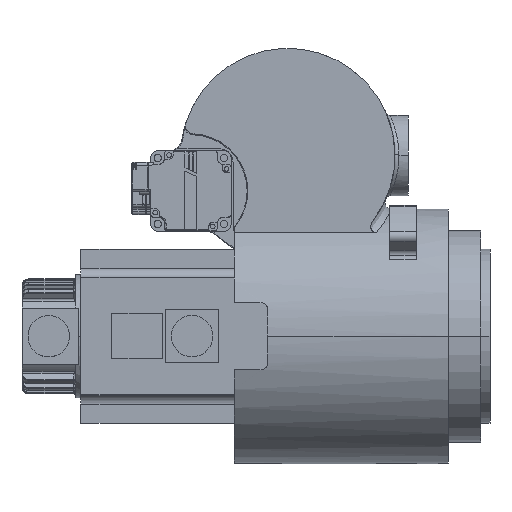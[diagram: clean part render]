
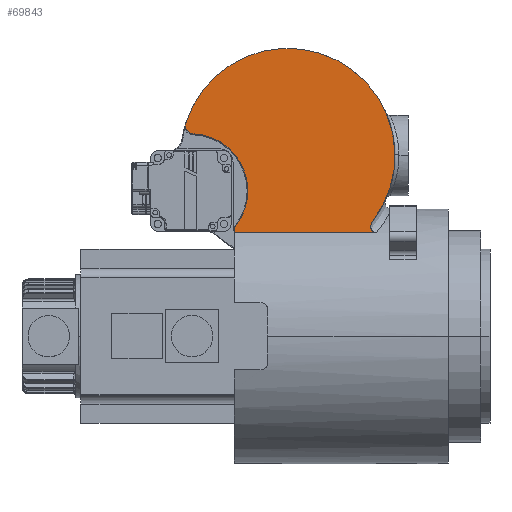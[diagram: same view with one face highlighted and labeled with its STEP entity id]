
A CAD part, top view. The second image highlights one B-rep face of the part: STEP entity #69843.
In plain terms, the highlighted planar face has unit normal (0, 0, 1).
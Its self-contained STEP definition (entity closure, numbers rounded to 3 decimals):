
#245 = DIRECTION ( 'NONE',  ( 0., 0., 1. ) ) ;
#3491 = LINE ( 'NONE', #70611, #74857 ) ;
#4595 = CARTESIAN_POINT ( 'NONE',  ( 63.168, -56.402, 55. ) ) ;
#5022 = CIRCLE ( 'NONE', #44814, 80. ) ;
#6357 = VECTOR ( 'NONE', #77544, 1000. ) ;
#8105 = DIRECTION ( 'NONE',  ( 1., 0., 0. ) ) ;
#8424 = DIRECTION ( 'NONE',  ( 0., 0., -1. ) ) ;
#11823 = CARTESIAN_POINT ( 'NONE',  ( 62.573, -55.613, 55. ) ) ;
#14988 = DIRECTION ( 'NONE',  ( 0., -1., 0. ) ) ;
#17564 = DIRECTION ( 'NONE',  ( 1., 0., 0. ) ) ;
#17804 = CARTESIAN_POINT ( 'NONE',  ( 66.081, -57.54, 55. ) ) ;
#17861 = CARTESIAN_POINT ( 'NONE',  ( 65.832, -57.54, 55. ) ) ;
#18165 = CARTESIAN_POINT ( 'NONE',  ( 66.081, -57.54, 55. ) ) ;
#18752 = CARTESIAN_POINT ( 'NONE',  ( 62.705, -55.827, 55. ) ) ;
#19587 = VERTEX_POINT ( 'NONE', #17804 ) ;
#19927 = CARTESIAN_POINT ( 'NONE',  ( 61.979, -53.492, 55. ) ) ;
#21515 = B_SPLINE_CURVE_WITH_KNOTS ( 'NONE', 3,
 ( #18165, #17861, #52061, #66255, #59888, #32060, #24798, #38770, #25087, #4595, #47483, #18752, #11823, #73799, #32362, #40517, #87878, #60492, #19927, #53862, #32647, #61065, #74395, #32939, #25711, #53271, #74087, #53555 ),
 .UNSPECIFIED., .F., .F.,
 ( 4, 2, 2, 2, 2, 2, 2, 2, 2, 2, 2, 2, 2, 4 ),
 ( 0., 0.001, 0.001, 0.002, 0.003, 0.004, 0.004, 0.005, 0.006, 0.007, 0.007, 0.009, 0.01, 0.012 ),
 .UNSPECIFIED. ) ;
#22148 = AXIS2_PLACEMENT_3D ( 'NONE', #66869, #79476, #17564 ) ;
#22665 = VERTEX_POINT ( 'NONE', #34849 ) ;
#24798 = CARTESIAN_POINT ( 'NONE',  ( 64.166, -57.122, 55. ) ) ;
#25087 = CARTESIAN_POINT ( 'NONE',  ( 63.538, -56.731, 55. ) ) ;
#25711 = CARTESIAN_POINT ( 'NONE',  ( 62.64, -50.138, 55. ) ) ;
#25835 = EDGE_CURVE ( 'NONE', #89012, #30117, #89066, .T. ) ;
#29037 = CARTESIAN_POINT ( 'NONE',  ( -40., -57.54, 55. ) ) ;
#29342 = CARTESIAN_POINT ( 'NONE',  ( -70.828, 16.137, 55. ) ) ;
#30091 = AXIS2_PLACEMENT_3D ( 'NONE', #63766, #8424, #8105 ) ;
#30117 = VERTEX_POINT ( 'NONE', #76243 ) ;
#32060 = CARTESIAN_POINT ( 'NONE',  ( 64.389, -57.224, 55. ) ) ;
#32334 = ORIENTED_EDGE ( 'NONE', *, *, #62598, .T. ) ;
#32362 = CARTESIAN_POINT ( 'NONE',  ( 62.265, -54.941, 55. ) ) ;
#32647 = CARTESIAN_POINT ( 'NONE',  ( 61.983, -52.751, 55. ) ) ;
#32939 = CARTESIAN_POINT ( 'NONE',  ( 62.449, -50.599, 55. ) ) ;
#34417 = CARTESIAN_POINT ( 'NONE',  ( 0., 0., 55. ) ) ;
#34849 = CARTESIAN_POINT ( 'NONE',  ( -76.338, 23.928, 55. ) ) ;
#35046 = CARTESIAN_POINT ( 'NONE',  ( -40., -56.018, 55. ) ) ;
#38678 = EDGE_CURVE ( 'NONE', #19587, #55592, #21515, .T. ) ;
#38770 = CARTESIAN_POINT ( 'NONE',  ( 63.741, -56.877, 55. ) ) ;
#40094 = ORIENTED_EDGE ( 'NONE', *, *, #38678, .T. ) ;
#40517 = CARTESIAN_POINT ( 'NONE',  ( 62.122, -54.466, 55. ) ) ;
#42690 = CIRCLE ( 'NONE', #72149, 6. ) ;
#43394 = CARTESIAN_POINT ( 'NONE',  ( -40., -57.54, 55. ) ) ;
#44197 = DIRECTION ( 'NONE',  ( 0., 0., 1. ) ) ;
#44814 = AXIS2_PLACEMENT_3D ( 'NONE', #34417, #48904, #68325 ) ;
#45728 = CARTESIAN_POINT ( 'NONE',  ( 63.656, -48.455, 55. ) ) ;
#47483 = CARTESIAN_POINT ( 'NONE',  ( 63.001, -56.221, 55. ) ) ;
#47509 = ORIENTED_EDGE ( 'NONE', *, *, #76050, .T. ) ;
#48904 = DIRECTION ( 'NONE',  ( 0., 0., 1. ) ) ;
#52061 = CARTESIAN_POINT ( 'NONE',  ( 65.586, -57.522, 55. ) ) ;
#53271 = CARTESIAN_POINT ( 'NONE',  ( 63.093, -49.265, 55. ) ) ;
#53555 = CARTESIAN_POINT ( 'NONE',  ( 63.656, -48.455, 55. ) ) ;
#53580 = ORIENTED_EDGE ( 'NONE', *, *, #79024, .F. ) ;
#53862 = CARTESIAN_POINT ( 'NONE',  ( 61.972, -53., 55. ) ) ;
#55592 = VERTEX_POINT ( 'NONE', #45728 ) ;
#57023 = CIRCLE ( 'NONE', #22148, 6. ) ;
#59037 = DIRECTION ( 'NONE',  ( 1., 0., 0. ) ) ;
#59214 = ORIENTED_EDGE ( 'NONE', *, *, #75353, .T. ) ;
#59888 = CARTESIAN_POINT ( 'NONE',  ( 64.859, -57.386, 55. ) ) ;
#60492 = CARTESIAN_POINT ( 'NONE',  ( 61.998, -53.736, 55. ) ) ;
#61065 = CARTESIAN_POINT ( 'NONE',  ( 62.057, -52.014, 55. ) ) ;
#62059 = VERTEX_POINT ( 'NONE', #29037 ) ;
#62141 = VERTEX_POINT ( 'NONE', #35046 ) ;
#62471 = CARTESIAN_POINT ( 'NONE',  ( -70.613, 22.133, 55. ) ) ;
#62598 = EDGE_CURVE ( 'NONE', #22665, #89012, #42690, .T. ) ;
#63766 = CARTESIAN_POINT ( 'NONE',  ( -72.356, -26.336, 55. ) ) ;
#66255 = CARTESIAN_POINT ( 'NONE',  ( 65.1, -57.445, 55. ) ) ;
#66869 = CARTESIAN_POINT ( 'NONE',  ( -34., -56.018, 55. ) ) ;
#68325 = DIRECTION ( 'NONE',  ( 1., 0., 0. ) ) ;
#69843 = ADVANCED_FACE ( 'NONE', ( #87141 ), #85517, .T. ) ;
#70611 = CARTESIAN_POINT ( 'NONE',  ( -40., 0., 55. ) ) ;
#70837 = EDGE_CURVE ( 'NONE', #62141, #62059, #3491, .T. ) ;
#72149 = AXIS2_PLACEMENT_3D ( 'NONE', #62471, #245, #89584 ) ;
#72480 = EDGE_LOOP ( 'NONE', ( #82860, #59214, #88233, #53580, #40094, #47509, #32334 ) ) ;
#73250 = CARTESIAN_POINT ( 'NONE',  ( 0., 0., 55. ) ) ;
#73799 = CARTESIAN_POINT ( 'NONE',  ( 62.354, -55.17, 55. ) ) ;
#74087 = CARTESIAN_POINT ( 'NONE',  ( 63.356, -48.849, 55. ) ) ;
#74281 = AXIS2_PLACEMENT_3D ( 'NONE', #73250, #44197, #59037 ) ;
#74395 = CARTESIAN_POINT ( 'NONE',  ( 62.159, -51.535, 55. ) ) ;
#74857 = VECTOR ( 'NONE', #14988, 1000. ) ;
#75353 = EDGE_CURVE ( 'NONE', #30117, #62141, #57023, .T. ) ;
#76050 = EDGE_CURVE ( 'NONE', #55592, #22665, #5022, .T. ) ;
#76243 = CARTESIAN_POINT ( 'NONE',  ( -38.745, -52.346, 55. ) ) ;
#77544 = DIRECTION ( 'NONE',  ( -1., 0., 0. ) ) ;
#79024 = EDGE_CURVE ( 'NONE', #19587, #62059, #84117, .T. ) ;
#79476 = DIRECTION ( 'NONE',  ( 0., 0., 1. ) ) ;
#82860 = ORIENTED_EDGE ( 'NONE', *, *, #25835, .T. ) ;
#84117 = LINE ( 'NONE', #43394, #6357 ) ;
#85517 = PLANE ( 'NONE',  #74281 ) ;
#87141 = FACE_OUTER_BOUND ( 'NONE', #72480, .T. ) ;
#87878 = CARTESIAN_POINT ( 'NONE',  ( 62.069, -54.223, 55. ) ) ;
#88233 = ORIENTED_EDGE ( 'NONE', *, *, #70837, .T. ) ;
#89012 = VERTEX_POINT ( 'NONE', #29342 ) ;
#89066 = CIRCLE ( 'NONE', #30091, 42.5 ) ;
#89584 = DIRECTION ( 'NONE',  ( 1., 0., 0. ) ) ;
